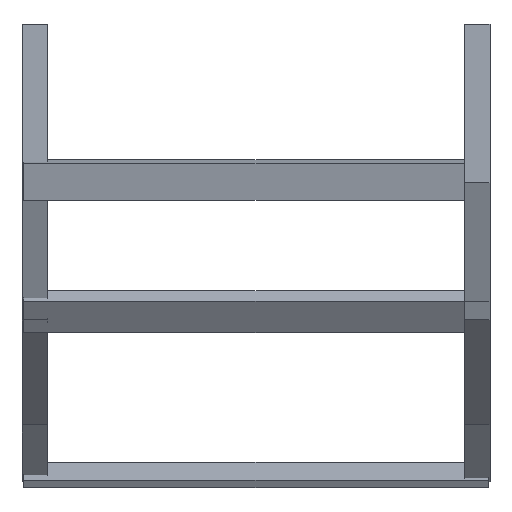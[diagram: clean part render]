
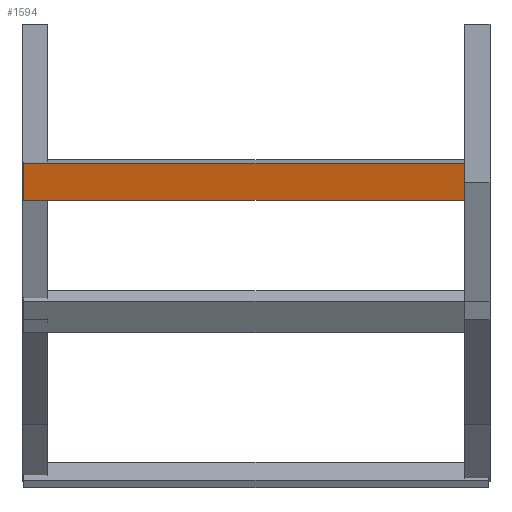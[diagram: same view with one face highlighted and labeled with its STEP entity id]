
A CAD part, front view. The second image highlights one B-rep face of the part: STEP entity #1594.
In plain terms, the highlighted planar face has unit normal (0, -0.981, -0.195) as drawn and (0, -1, 0) by its records, which use the part's own axes.
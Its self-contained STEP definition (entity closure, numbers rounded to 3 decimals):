
#81 = LINE ( 'NONE', #1800, #396 ) ;
#91 = AXIS2_PLACEMENT_3D ( 'NONE', #1252, #664, #1664 ) ;
#95 = EDGE_CURVE ( 'NONE', #325, #1740, #1791, .T. ) ;
#104 = CARTESIAN_POINT ( 'NONE',  ( 248., 0., 20.25 ) ) ;
#148 = VECTOR ( 'NONE', #790, 1000. ) ;
#165 = EDGE_CURVE ( 'NONE', #1302, #930, #81, .T. ) ;
#201 = PLANE ( 'NONE',  #91 ) ;
#212 = LINE ( 'NONE', #798, #148 ) ;
#325 = VERTEX_POINT ( 'NONE', #624 ) ;
#333 = VECTOR ( 'NONE', #705, 1000. ) ;
#396 = VECTOR ( 'NONE', #1519, 1000. ) ;
#490 = CARTESIAN_POINT ( 'NONE',  ( -248., 0., 20.25 ) ) ;
#553 = CARTESIAN_POINT ( 'NONE',  ( -248., 0., -20.25 ) ) ;
#624 = CARTESIAN_POINT ( 'NONE',  ( 248., 0., -20.25 ) ) ;
#664 = DIRECTION ( 'NONE',  ( 0., 1., 0. ) ) ;
#688 = DIRECTION ( 'NONE',  ( -1., 0., 0. ) ) ;
#697 = EDGE_CURVE ( 'NONE', #1302, #325, #836, .T. ) ;
#705 = DIRECTION ( 'NONE',  ( 0., 0., -1. ) ) ;
#732 = EDGE_LOOP ( 'NONE', ( #1257, #993, #932, #1799 ) ) ;
#790 = DIRECTION ( 'NONE',  ( 0., 0., -1. ) ) ;
#798 = CARTESIAN_POINT ( 'NONE',  ( -248., 0., 20.25 ) ) ;
#836 = LINE ( 'NONE', #876, #333 ) ;
#876 = CARTESIAN_POINT ( 'NONE',  ( 248., 0., 20.25 ) ) ;
#930 = VERTEX_POINT ( 'NONE', #490 ) ;
#932 = ORIENTED_EDGE ( 'NONE', *, *, #697, .F. ) ;
#943 = FACE_OUTER_BOUND ( 'NONE', #732, .T. ) ;
#993 = ORIENTED_EDGE ( 'NONE', *, *, #95, .F. ) ;
#1252 = CARTESIAN_POINT ( 'NONE',  ( 248., 0., 20.25 ) ) ;
#1257 = ORIENTED_EDGE ( 'NONE', *, *, #1685, .T. ) ;
#1302 = VERTEX_POINT ( 'NONE', #104 ) ;
#1519 = DIRECTION ( 'NONE',  ( -1., 0., 0. ) ) ;
#1594 = ADVANCED_FACE ( 'NONE', ( #943 ), #201, .F. ) ;
#1640 = CARTESIAN_POINT ( 'NONE',  ( 248., 0., -20.25 ) ) ;
#1664 = DIRECTION ( 'NONE',  ( 0., 0., 1. ) ) ;
#1685 = EDGE_CURVE ( 'NONE', #930, #1740, #212, .T. ) ;
#1740 = VERTEX_POINT ( 'NONE', #553 ) ;
#1791 = LINE ( 'NONE', #1640, #1826 ) ;
#1799 = ORIENTED_EDGE ( 'NONE', *, *, #165, .T. ) ;
#1800 = CARTESIAN_POINT ( 'NONE',  ( 248., 0., 20.25 ) ) ;
#1826 = VECTOR ( 'NONE', #688, 1000. ) ;
